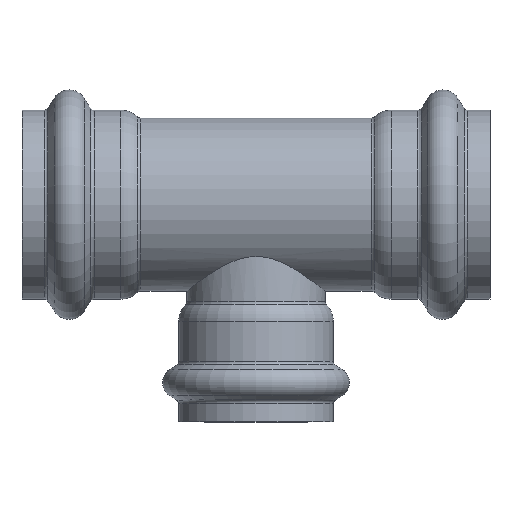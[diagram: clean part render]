
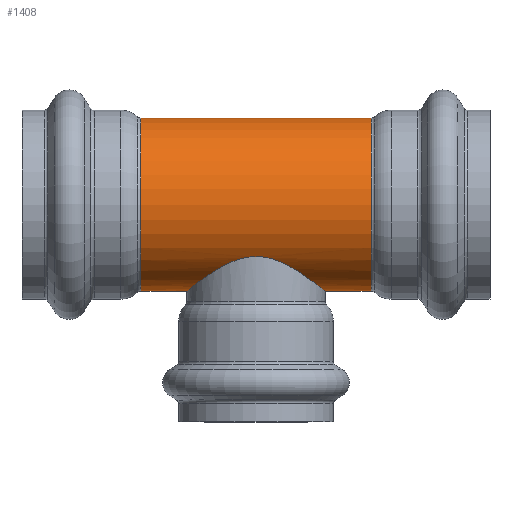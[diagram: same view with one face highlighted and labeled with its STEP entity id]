
A CAD part, top view. The second image highlights one B-rep face of the part: STEP entity #1408.
In plain terms, the highlighted cylindrical face has radius 30.163 mm (diameter 60.325 mm), a full revolution.
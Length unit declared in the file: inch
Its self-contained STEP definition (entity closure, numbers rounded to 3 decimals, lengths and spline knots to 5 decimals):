
#134=FACE_OUTER_BOUND('',#197,.T.);
#197=EDGE_LOOP('',(#1132,#1133,#1134,#1135,#1136,#1137,#1138,#1139,#1140,
#1141,#1142,#1143,#1144,#1145));
#334=CIRCLE('',#1605,1.1875);
#335=CIRCLE('',#1606,1.1875);
#336=CIRCLE('',#1607,1.1875);
#337=CIRCLE('',#1609,1.1875);
#338=CIRCLE('',#1610,1.1875);
#339=CIRCLE('',#1611,1.1875);
#420=LINE('',#2686,#450);
#421=LINE('',#2687,#451);
#450=VECTOR('',#2052,1.1875);
#451=VECTOR('',#2053,1.1875);
#460=B_SPLINE_CURVE_WITH_KNOTS('',3,(#2252,#2253,#2254,#2255,#2256,#2257,
#2258,#2259,#2260,#2261,#2262,#2263,#2264,#2265,#2266,#2267,#2268,#2269),
 .UNSPECIFIED.,.F.,.F.,(4,2,2,2,2,2,2,2,4),(0.,0.49484,0.98968,
1.48453,1.97937,2.45882,2.93827,3.41772,
3.89717),.UNSPECIFIED.);
#461=B_SPLINE_CURVE_WITH_KNOTS('',3,(#2271,#2272,#2273,#2274,#2275,#2276,
#2277,#2278,#2279,#2280,#2281,#2282,#2283,#2284,#2285,#2286,#2287,#2288),
 .UNSPECIFIED.,.F.,.F.,(4,2,2,2,2,2,2,2,4),(11.69152,12.17098,
12.65043,13.12988,13.60933,14.10417,14.59902,
15.09386,15.5887),.UNSPECIFIED.);
#462=B_SPLINE_CURVE_WITH_KNOTS('',3,(#2290,#2291,#2292,#2293,#2294,#2295,
#2296,#2297,#2298,#2299,#2300,#2301,#2302,#2303,#2304,#2305,#2306,#2307),
 .UNSPECIFIED.,.F.,.F.,(4,2,2,2,2,2,2,2,4),(7.79435,8.28919,
8.78403,9.27888,9.77372,10.25317,10.73262,
11.21207,11.69152),.UNSPECIFIED.);
#463=B_SPLINE_CURVE_WITH_KNOTS('',3,(#2313,#2314,#2315,#2316,#2317,#2318,
#2319,#2320,#2321,#2322,#2323,#2324,#2325,#2326,#2327,#2328,#2329,#2330),
 .UNSPECIFIED.,.F.,.F.,(4,2,2,2,2,2,2,2,4),(3.89717,4.37663,
4.85608,5.33553,5.81498,6.30982,6.80467,
7.29951,7.79435),.UNSPECIFIED.);
#468=VERTEX_POINT('',#2250);
#469=VERTEX_POINT('',#2251);
#470=VERTEX_POINT('',#2270);
#471=VERTEX_POINT('',#2289);
#572=VERTEX_POINT('',#2673);
#573=VERTEX_POINT('',#2675);
#574=VERTEX_POINT('',#2677);
#575=VERTEX_POINT('',#2681);
#576=VERTEX_POINT('',#2682);
#577=VERTEX_POINT('',#2684);
#628=EDGE_CURVE('',#468,#469,#460,.T.);
#629=EDGE_CURVE('',#470,#468,#461,.T.);
#630=EDGE_CURVE('',#471,#470,#462,.T.);
#634=EDGE_CURVE('',#469,#471,#463,.T.);
#772=EDGE_CURVE('',#573,#572,#334,.T.);
#773=EDGE_CURVE('',#574,#573,#335,.T.);
#774=EDGE_CURVE('',#572,#574,#336,.T.);
#775=EDGE_CURVE('',#575,#576,#337,.T.);
#776=EDGE_CURVE('',#577,#575,#338,.T.);
#777=EDGE_CURVE('',#577,#469,#420,.T.);
#778=EDGE_CURVE('',#470,#574,#421,.T.);
#779=EDGE_CURVE('',#576,#577,#339,.T.);
#1132=ORIENTED_EDGE('',*,*,#775,.F.);
#1133=ORIENTED_EDGE('',*,*,#776,.F.);
#1134=ORIENTED_EDGE('',*,*,#777,.T.);
#1135=ORIENTED_EDGE('',*,*,#634,.T.);
#1136=ORIENTED_EDGE('',*,*,#630,.T.);
#1137=ORIENTED_EDGE('',*,*,#778,.T.);
#1138=ORIENTED_EDGE('',*,*,#773,.T.);
#1139=ORIENTED_EDGE('',*,*,#772,.T.);
#1140=ORIENTED_EDGE('',*,*,#774,.T.);
#1141=ORIENTED_EDGE('',*,*,#778,.F.);
#1142=ORIENTED_EDGE('',*,*,#629,.T.);
#1143=ORIENTED_EDGE('',*,*,#628,.T.);
#1144=ORIENTED_EDGE('',*,*,#777,.F.);
#1145=ORIENTED_EDGE('',*,*,#779,.F.);
#1299=CYLINDRICAL_SURFACE('',#1608,1.1875);
#1408=ADVANCED_FACE('',(#134),#1299,.T.);
#1605=AXIS2_PLACEMENT_3D('',#2676,#2040,#2041);
#1606=AXIS2_PLACEMENT_3D('',#2678,#2042,#2043);
#1607=AXIS2_PLACEMENT_3D('',#2679,#2044,#2045);
#1608=AXIS2_PLACEMENT_3D('',#2680,#2046,#2047);
#1609=AXIS2_PLACEMENT_3D('',#2683,#2048,#2049);
#1610=AXIS2_PLACEMENT_3D('',#2685,#2050,#2051);
#1611=AXIS2_PLACEMENT_3D('',#2688,#2054,#2055);
#2040=DIRECTION('center_axis',(1.,0.,0.));
#2041=DIRECTION('ref_axis',(0.,1.,0.));
#2042=DIRECTION('center_axis',(1.,0.,0.));
#2043=DIRECTION('ref_axis',(0.,1.,0.));
#2044=DIRECTION('center_axis',(1.,0.,0.));
#2045=DIRECTION('ref_axis',(0.,1.,0.));
#2046=DIRECTION('center_axis',(1.,0.,0.));
#2047=DIRECTION('ref_axis',(0.,1.,0.));
#2048=DIRECTION('center_axis',(1.,0.,0.));
#2049=DIRECTION('ref_axis',(0.,1.,0.));
#2050=DIRECTION('center_axis',(1.,0.,0.));
#2051=DIRECTION('ref_axis',(0.,1.,0.));
#2052=DIRECTION('',(-1.,0.,0.));
#2053=DIRECTION('',(-1.,0.,0.));
#2054=DIRECTION('center_axis',(1.,0.,0.));
#2055=DIRECTION('ref_axis',(0.,1.,0.));
#2250=CARTESIAN_POINT('',(0.,-0.7125,0.95));
#2251=CARTESIAN_POINT('',(0.95,-1.1875,0.));
#2252=CARTESIAN_POINT('Ctrl Pts',(0.,-0.7125,0.95));
#2253=CARTESIAN_POINT('Ctrl Pts',(0.06494,-0.7125,0.95));
#2254=CARTESIAN_POINT('Ctrl Pts',(0.12934,-0.72164,
0.94331));
#2255=CARTESIAN_POINT('Ctrl Pts',(0.25407,-0.75404,
0.91761));
#2256=CARTESIAN_POINT('Ctrl Pts',(0.31444,-0.77714,
0.89861));
#2257=CARTESIAN_POINT('Ctrl Pts',(0.42908,-0.83017,
0.84986));
#2258=CARTESIAN_POINT('Ctrl Pts',(0.48343,-0.86008,
0.82006));
#2259=CARTESIAN_POINT('Ctrl Pts',(0.58411,-0.92044,
0.75168));
#2260=CARTESIAN_POINT('Ctrl Pts',(0.63044,-0.9509,
0.71307));
#2261=CARTESIAN_POINT('Ctrl Pts',(0.71178,-1.0067,0.63172));
#2262=CARTESIAN_POINT('Ctrl Pts',(0.75008,-1.03428,0.58616));
#2263=CARTESIAN_POINT('Ctrl Pts',(0.81875,-1.08511,0.48565));
#2264=CARTESIAN_POINT('Ctrl Pts',(0.84913,-1.10834,0.43068));
#2265=CARTESIAN_POINT('Ctrl Pts',(0.89874,-1.1468,0.31428));
#2266=CARTESIAN_POINT('Ctrl Pts',(0.91801,-1.16204,0.25272));
#2267=CARTESIAN_POINT('Ctrl Pts',(0.94365,-1.1824,0.12704));
#2268=CARTESIAN_POINT('Ctrl Pts',(0.95,-1.1875,0.06292));
#2269=CARTESIAN_POINT('Ctrl Pts',(0.95,-1.1875,0.));
#2270=CARTESIAN_POINT('',(-0.95,-1.1875,0.));
#2271=CARTESIAN_POINT('Ctrl Pts',(-0.95,-1.1875,0.));
#2272=CARTESIAN_POINT('Ctrl Pts',(-0.95,-1.1875,0.06292));
#2273=CARTESIAN_POINT('Ctrl Pts',(-0.94365,-1.1824,
0.12704));
#2274=CARTESIAN_POINT('Ctrl Pts',(-0.91801,-1.16204,
0.25272));
#2275=CARTESIAN_POINT('Ctrl Pts',(-0.89874,-1.1468,
0.31428));
#2276=CARTESIAN_POINT('Ctrl Pts',(-0.84913,-1.10834,
0.43068));
#2277=CARTESIAN_POINT('Ctrl Pts',(-0.81875,-1.08511,
0.48565));
#2278=CARTESIAN_POINT('Ctrl Pts',(-0.75008,-1.03428,
0.58616));
#2279=CARTESIAN_POINT('Ctrl Pts',(-0.71178,-1.0067,
0.63172));
#2280=CARTESIAN_POINT('Ctrl Pts',(-0.63044,-0.9509,
0.71307));
#2281=CARTESIAN_POINT('Ctrl Pts',(-0.58411,-0.92044,
0.75168));
#2282=CARTESIAN_POINT('Ctrl Pts',(-0.48343,-0.86008,
0.82006));
#2283=CARTESIAN_POINT('Ctrl Pts',(-0.42908,-0.83017,
0.84986));
#2284=CARTESIAN_POINT('Ctrl Pts',(-0.31444,-0.77714,
0.89861));
#2285=CARTESIAN_POINT('Ctrl Pts',(-0.25407,-0.75404,
0.91761));
#2286=CARTESIAN_POINT('Ctrl Pts',(-0.12934,-0.72164,
0.94331));
#2287=CARTESIAN_POINT('Ctrl Pts',(-0.06494,-0.7125,0.95));
#2288=CARTESIAN_POINT('Ctrl Pts',(0.,-0.7125,0.95));
#2289=CARTESIAN_POINT('',(0.,-0.7125,-0.95));
#2290=CARTESIAN_POINT('Ctrl Pts',(0.,-0.7125,-0.95));
#2291=CARTESIAN_POINT('Ctrl Pts',(-0.06494,-0.7125,-0.95));
#2292=CARTESIAN_POINT('Ctrl Pts',(-0.12934,-0.72164,
-0.94331));
#2293=CARTESIAN_POINT('Ctrl Pts',(-0.25407,-0.75404,
-0.91761));
#2294=CARTESIAN_POINT('Ctrl Pts',(-0.31444,-0.77714,
-0.89861));
#2295=CARTESIAN_POINT('Ctrl Pts',(-0.42908,-0.83017,
-0.84986));
#2296=CARTESIAN_POINT('Ctrl Pts',(-0.48343,-0.86008,
-0.82006));
#2297=CARTESIAN_POINT('Ctrl Pts',(-0.58411,-0.92044,
-0.75168));
#2298=CARTESIAN_POINT('Ctrl Pts',(-0.63044,-0.9509,
-0.71307));
#2299=CARTESIAN_POINT('Ctrl Pts',(-0.71178,-1.0067,-0.63172));
#2300=CARTESIAN_POINT('Ctrl Pts',(-0.75008,-1.03428,
-0.58616));
#2301=CARTESIAN_POINT('Ctrl Pts',(-0.81875,-1.08511,
-0.48565));
#2302=CARTESIAN_POINT('Ctrl Pts',(-0.84913,-1.10834,
-0.43068));
#2303=CARTESIAN_POINT('Ctrl Pts',(-0.89874,-1.1468,
-0.31428));
#2304=CARTESIAN_POINT('Ctrl Pts',(-0.91801,-1.16204,
-0.25272));
#2305=CARTESIAN_POINT('Ctrl Pts',(-0.94365,-1.1824,
-0.12704));
#2306=CARTESIAN_POINT('Ctrl Pts',(-0.95,-1.1875,-0.06292));
#2307=CARTESIAN_POINT('Ctrl Pts',(-0.95,-1.1875,0.));
#2313=CARTESIAN_POINT('Ctrl Pts',(0.95,-1.1875,0.));
#2314=CARTESIAN_POINT('Ctrl Pts',(0.95,-1.1875,-0.06292));
#2315=CARTESIAN_POINT('Ctrl Pts',(0.94365,-1.1824,-0.12704));
#2316=CARTESIAN_POINT('Ctrl Pts',(0.91801,-1.16204,-0.25272));
#2317=CARTESIAN_POINT('Ctrl Pts',(0.89874,-1.1468,-0.31428));
#2318=CARTESIAN_POINT('Ctrl Pts',(0.84913,-1.10834,-0.43068));
#2319=CARTESIAN_POINT('Ctrl Pts',(0.81875,-1.08511,-0.48565));
#2320=CARTESIAN_POINT('Ctrl Pts',(0.75008,-1.03428,-0.58616));
#2321=CARTESIAN_POINT('Ctrl Pts',(0.71178,-1.0067,-0.63172));
#2322=CARTESIAN_POINT('Ctrl Pts',(0.63044,-0.9509,
-0.71307));
#2323=CARTESIAN_POINT('Ctrl Pts',(0.58411,-0.92044,
-0.75168));
#2324=CARTESIAN_POINT('Ctrl Pts',(0.48343,-0.86008,
-0.82006));
#2325=CARTESIAN_POINT('Ctrl Pts',(0.42908,-0.83017,
-0.84986));
#2326=CARTESIAN_POINT('Ctrl Pts',(0.31444,-0.77714,
-0.89861));
#2327=CARTESIAN_POINT('Ctrl Pts',(0.25407,-0.75404,
-0.91761));
#2328=CARTESIAN_POINT('Ctrl Pts',(0.12934,-0.72164,
-0.94331));
#2329=CARTESIAN_POINT('Ctrl Pts',(0.06494,-0.7125,-0.95));
#2330=CARTESIAN_POINT('Ctrl Pts',(0.,-0.7125,-0.95));
#2673=CARTESIAN_POINT('',(-1.58035,0.,1.1875));
#2675=CARTESIAN_POINT('',(-1.58035,1.1875,0.));
#2676=CARTESIAN_POINT('Origin',(-1.58035,0.,0.));
#2677=CARTESIAN_POINT('',(-1.58035,-1.1875,0.));
#2678=CARTESIAN_POINT('Origin',(-1.58035,0.,0.));
#2679=CARTESIAN_POINT('Origin',(-1.58035,0.,0.));
#2680=CARTESIAN_POINT('Origin',(0.79018,0.,0.));
#2681=CARTESIAN_POINT('',(1.58035,1.1875,0.));
#2682=CARTESIAN_POINT('',(1.58035,0.,1.1875));
#2683=CARTESIAN_POINT('Origin',(1.58035,0.,0.));
#2684=CARTESIAN_POINT('',(1.58035,-1.1875,0.));
#2685=CARTESIAN_POINT('Origin',(1.58035,0.,0.));
#2686=CARTESIAN_POINT('',(0.79018,-1.1875,0.));
#2687=CARTESIAN_POINT('',(0.79018,-1.1875,0.));
#2688=CARTESIAN_POINT('Origin',(1.58035,0.,0.));
